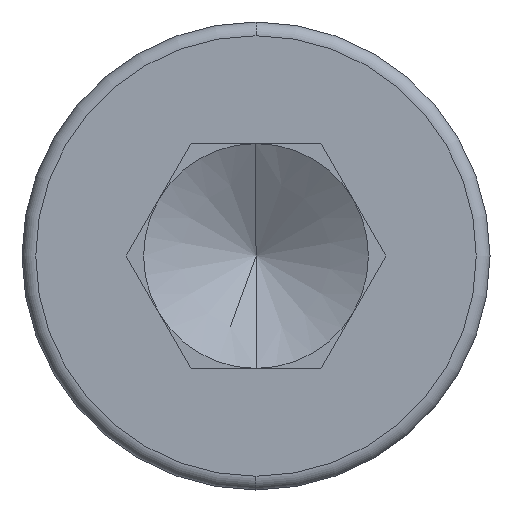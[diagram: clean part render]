
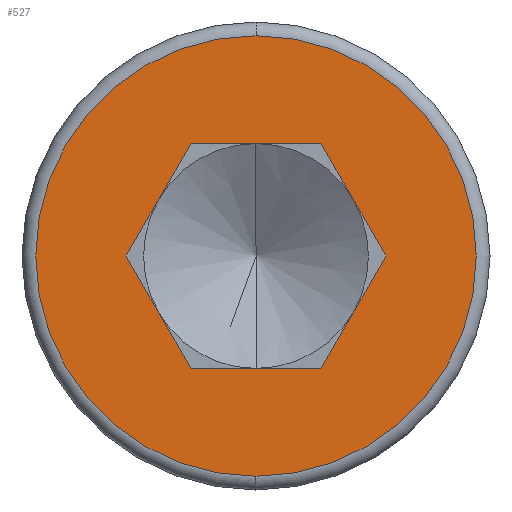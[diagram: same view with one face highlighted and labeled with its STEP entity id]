
A CAD part, left-side view. The second image highlights one B-rep face of the part: STEP entity #527.
In plain terms, the highlighted planar face has unit normal (-1, 0, 0).
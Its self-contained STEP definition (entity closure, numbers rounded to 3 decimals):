
#289 = VECTOR ( 'NONE', #3759, 1000. ) ;
#319 = LINE ( 'NONE', #6939, #3487 ) ;
#378 = CARTESIAN_POINT ( 'NONE',  ( 0., 0., 0. ) ) ;
#527 = ADVANCED_FACE ( 'NONE', ( #4303, #8125 ), #5063, .T. ) ;
#696 = DIRECTION ( 'NONE',  ( 0., 0., 1. ) ) ;
#1167 = VERTEX_POINT ( 'NONE', #10910 ) ;
#1236 = VERTEX_POINT ( 'NONE', #3280 ) ;
#1244 = CARTESIAN_POINT ( 'NONE',  ( 0., 2.358, 0. ) ) ;
#1430 = AXIS2_PLACEMENT_3D ( 'NONE', #4247, #8063, #11942 ) ;
#1492 = AXIS2_PLACEMENT_3D ( 'NONE', #378, #10993, #9057 ) ;
#1658 = VERTEX_POINT ( 'NONE', #2914 ) ;
#1963 = CIRCLE ( 'NONE', #3563, 4. ) ;
#2107 = EDGE_LOOP ( 'NONE', ( #12090, #11724 ) ) ;
#2375 = CARTESIAN_POINT ( 'NONE',  ( 0., -2.358, 0. ) ) ;
#2391 = CARTESIAN_POINT ( 'NONE',  ( 0., 0., 0. ) ) ;
#2592 = ORIENTED_EDGE ( 'NONE', *, *, #4427, .F. ) ;
#2914 = CARTESIAN_POINT ( 'NONE',  ( 0., -1.179, -2.042 ) ) ;
#2925 = CARTESIAN_POINT ( 'NONE',  ( 0., 0., 4. ) ) ;
#3280 = CARTESIAN_POINT ( 'NONE',  ( 0., 0., -4. ) ) ;
#3468 = DIRECTION ( 'NONE',  ( 0., 1., 0. ) ) ;
#3487 = VECTOR ( 'NONE', #10007, 1000. ) ;
#3559 = CARTESIAN_POINT ( 'NONE',  ( 0., -2.358, 0. ) ) ;
#3563 = AXIS2_PLACEMENT_3D ( 'NONE', #2391, #11142, #696 ) ;
#3759 = DIRECTION ( 'NONE',  ( 0., -0.5, -0.866 ) ) ;
#4247 = CARTESIAN_POINT ( 'NONE',  ( 0., 0., 0. ) ) ;
#4303 = FACE_BOUND ( 'NONE', #4432, .T. ) ;
#4396 = LINE ( 'NONE', #4644, #8287 ) ;
#4427 = EDGE_CURVE ( 'NONE', #5921, #11649, #4396, .T. ) ;
#4432 = EDGE_LOOP ( 'NONE', ( #6405, #2592, #7224, #10291, #4761, #7662 ) ) ;
#4644 = CARTESIAN_POINT ( 'NONE',  ( 0., -1.179, 2.042 ) ) ;
#4761 = ORIENTED_EDGE ( 'NONE', *, *, #7328, .F. ) ;
#5063 = PLANE ( 'NONE',  #1430 ) ;
#5120 = EDGE_CURVE ( 'NONE', #7793, #1236, #5485, .T. ) ;
#5299 = CARTESIAN_POINT ( 'NONE',  ( 0., 1.179, 2.042 ) ) ;
#5485 = CIRCLE ( 'NONE', #1492, 4. ) ;
#5741 = EDGE_CURVE ( 'NONE', #8742, #1167, #5929, .T. ) ;
#5921 = VERTEX_POINT ( 'NONE', #10419 ) ;
#5929 = LINE ( 'NONE', #1244, #6669 ) ;
#6057 = LINE ( 'NONE', #8880, #12070 ) ;
#6151 = VECTOR ( 'NONE', #10070, 1000. ) ;
#6405 = ORIENTED_EDGE ( 'NONE', *, *, #7244, .T. ) ;
#6669 = VECTOR ( 'NONE', #9750, 1000. ) ;
#6858 = EDGE_CURVE ( 'NONE', #5921, #7586, #11131, .T. ) ;
#6939 = CARTESIAN_POINT ( 'NONE',  ( 0., 2.358, 0. ) ) ;
#7224 = ORIENTED_EDGE ( 'NONE', *, *, #6858, .T. ) ;
#7244 = EDGE_CURVE ( 'NONE', #8742, #11649, #319, .T. ) ;
#7328 = EDGE_CURVE ( 'NONE', #1167, #1658, #6057, .T. ) ;
#7569 = CARTESIAN_POINT ( 'NONE',  ( 0., -1.179, 2.042 ) ) ;
#7586 = VERTEX_POINT ( 'NONE', #3559 ) ;
#7662 = ORIENTED_EDGE ( 'NONE', *, *, #5741, .F. ) ;
#7793 = VERTEX_POINT ( 'NONE', #2925 ) ;
#8063 = DIRECTION ( 'NONE',  ( -1., 0., 0. ) ) ;
#8125 = FACE_OUTER_BOUND ( 'NONE', #2107, .T. ) ;
#8287 = VECTOR ( 'NONE', #3468, 1000. ) ;
#8742 = VERTEX_POINT ( 'NONE', #9074 ) ;
#8880 = CARTESIAN_POINT ( 'NONE',  ( 0., 1.179, -2.042 ) ) ;
#9057 = DIRECTION ( 'NONE',  ( 0., 0., 1. ) ) ;
#9074 = CARTESIAN_POINT ( 'NONE',  ( 0., 2.358, 0. ) ) ;
#9165 = EDGE_CURVE ( 'NONE', #7586, #1658, #10135, .T. ) ;
#9750 = DIRECTION ( 'NONE',  ( 0., -0.5, -0.866 ) ) ;
#10007 = DIRECTION ( 'NONE',  ( 0., -0.5, 0.866 ) ) ;
#10070 = DIRECTION ( 'NONE',  ( 0., 0.5, -0.866 ) ) ;
#10135 = LINE ( 'NONE', #2375, #6151 ) ;
#10186 = EDGE_CURVE ( 'NONE', #1236, #7793, #1963, .T. ) ;
#10291 = ORIENTED_EDGE ( 'NONE', *, *, #9165, .T. ) ;
#10419 = CARTESIAN_POINT ( 'NONE',  ( 0., -1.179, 2.042 ) ) ;
#10910 = CARTESIAN_POINT ( 'NONE',  ( 0., 1.179, -2.042 ) ) ;
#10993 = DIRECTION ( 'NONE',  ( -1., 0., 0. ) ) ;
#11131 = LINE ( 'NONE', #7569, #289 ) ;
#11142 = DIRECTION ( 'NONE',  ( -1., 0., 0. ) ) ;
#11649 = VERTEX_POINT ( 'NONE', #5299 ) ;
#11695 = DIRECTION ( 'NONE',  ( 0., -1., 0. ) ) ;
#11724 = ORIENTED_EDGE ( 'NONE', *, *, #10186, .T. ) ;
#11942 = DIRECTION ( 'NONE',  ( 0., 0., 1. ) ) ;
#12070 = VECTOR ( 'NONE', #11695, 1000. ) ;
#12090 = ORIENTED_EDGE ( 'NONE', *, *, #5120, .T. ) ;
